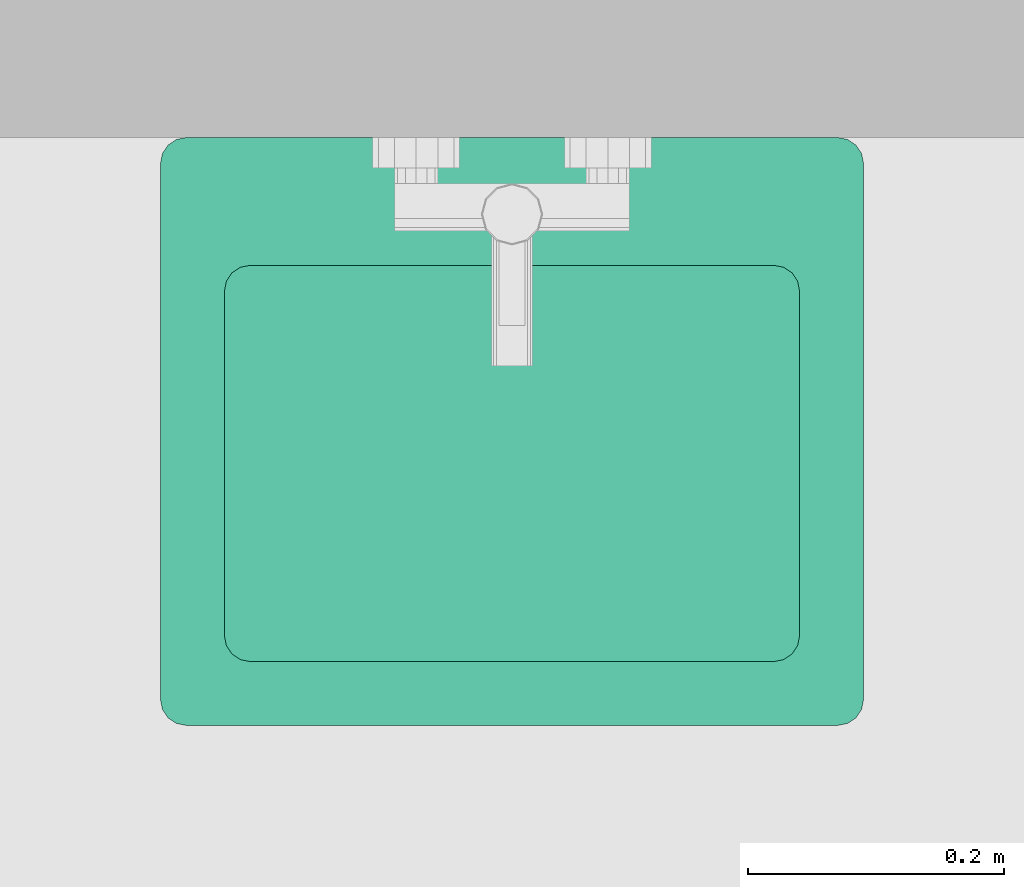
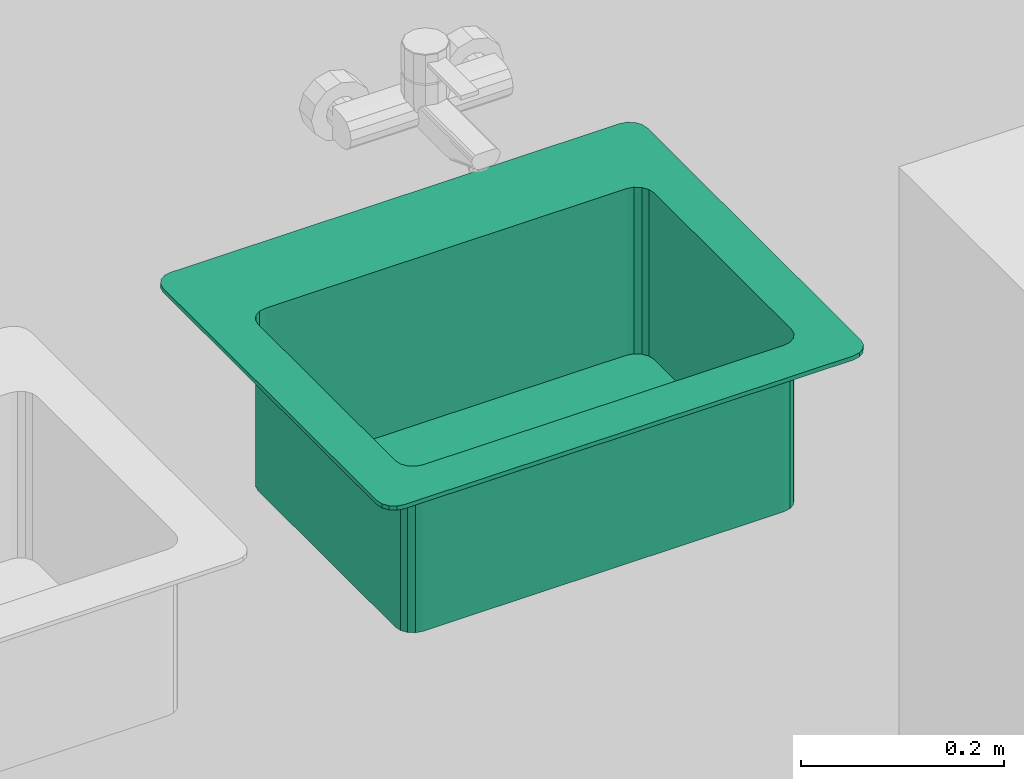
# One storey, part 256 of 301: 1 flow terminal.
"""IFC2X3 building model written with IfcOpenShell, lengths in millimetres."""

from ifc_helpers import new_model, entity, si_unit, converted_unit, derived_unit, money_unit, direction, frame, origin_with_axes, place, context, subcontext, project, spatial, open_shell, faceted_brep, surface_model, source, transform, mapped, type_object, element, save


model = new_model("IFC2X3")

# Units and contexts
model_context = context("Model", 3, precision=0.01, world=origin_with_axes(), true_north=direction((0.0, 1.0)))
body_context = subcontext(model_context, "Body", "Model", "MODEL_VIEW")
ifc_project = project(units=[si_unit("LENGTHUNIT", "METRE", prefix="MILLI"), si_unit("AREAUNIT", "SQUARE_METRE"), si_unit("VOLUMEUNIT", "CUBIC_METRE"), converted_unit("PLANEANGLEUNIT", "DEGREE", entity("IfcPlaneAngleMeasure", 0.0174532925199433), si_unit("PLANEANGLEUNIT", "RADIAN"), dimensions=[0, 0, 0, 0, 0, 0, 0]), money_unit("EUR"), converted_unit("TIMEUNIT", "Year", entity("IfcTimeMeasure", 31557600.0), si_unit("TIMEUNIT", "SECOND"), dimensions=[0, 0, 1, 0, 0, 0, 0]), si_unit("MASSUNIT", "GRAM", prefix="KILO"), si_unit("THERMODYNAMICTEMPERATUREUNIT", "DEGREE_CELSIUS"), si_unit("LUMINOUSINTENSITYUNIT", "LUMEN"), si_unit("ENERGYUNIT", "JOULE", prefix="MEGA"), derived_unit("THERMALCONDUCTANCEUNIT", [(si_unit("POWERUNIT", "WATT"), 1), (si_unit("LENGTHUNIT", "METRE"), -1), (si_unit("THERMODYNAMICTEMPERATUREUNIT", "KELVIN"), -1)]), derived_unit("SPECIFICHEATCAPACITYUNIT", [(si_unit("ENERGYUNIT", "JOULE"), 1), (si_unit("MASSUNIT", "GRAM", prefix="KILO"), -1), (si_unit("THERMODYNAMICTEMPERATUREUNIT", "KELVIN"), -1)]), derived_unit("MASSDENSITYUNIT", [(si_unit("MASSUNIT", "GRAM", prefix="KILO"), 1), (si_unit("VOLUMEUNIT", "CUBIC_METRE"), -1)])], contexts=[model_context])

# Site, building, storey
site_placement = place(None, frame((0.0, 0.0, 8650.0), z_axis=(0.0, 0.0, 1.0), x_axis=(1.0, 0.0, 0.0)))
site = spatial("IfcSite", under=ifc_project, at=site_placement, Name="43301:001:0844", CompositionType="ELEMENT")
building_placement = place(site_placement, origin_with_axes())
building = spatial("IfcBuilding", under=site, at=building_placement, Name="Kuressaare Ametikooli tuulikute mehaanikute õppekorpus", CompositionType="ELEMENT")
storey_placement = place(building_placement, origin_with_axes())
storey = spatial("IfcBuildingStorey", under=building, at=storey_placement, Name="1.korrus", CompositionType="ELEMENT", Elevation=0.0)

# Flow terminal
sanitary_terminal_type = type_object("IfcSanitaryTerminalType", Name="Sink General 27", PredefinedType="NOTDEFINED")
shared_shape = source(origin_with_axes(), body_context, "Body", "SurfaceModel", [
    surface_model("IfcShellBasedSurfaceModel", [(-70.0, 50.0, 705.0), (-70.0, 50.0, 899.9999999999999), (-479.9999999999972, 50.0, 899.9999999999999), (-479.9999999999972, 50.0, 705.0), (-62.34633135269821, 51.52240934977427, 705.0), (-62.34633135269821, 51.52240934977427, 899.9999999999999), (-487.6536686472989, 51.52240934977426, 899.9999999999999), (-487.6536686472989, 51.52240934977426, 705.0), (-494.1421356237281, 55.85786437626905, 705.0), (-498.4775906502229, 62.3463313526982, 705.0), (-499.9999999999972, 70.0, 705.0), (-499.9999999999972, 340.0000000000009, 705.0), (-498.4775906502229, 347.6536686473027, 705.0), (-494.1421356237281, 354.1421356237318, 705.0), (-487.653668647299, 358.4775906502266, 705.0), (-479.9999999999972, 360.0000000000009, 705.0), (-70.0, 360.0000000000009, 705.0), (-62.34633135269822, 358.4775906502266, 705.0), (-55.85786437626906, 354.1421356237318, 705.0), (-51.52240934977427, 347.6536686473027, 705.0), (-50.0, 340.0000000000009, 705.0), (-50.0, 70.0, 705.0), (-51.52240934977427, 62.34633135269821, 705.0), (-55.85786437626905, 55.85786437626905, 705.0), (-55.85786437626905, 55.85786437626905, 899.9999999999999), (-494.1421356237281, 55.85786437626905, 899.9999999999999), (-498.4775906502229, 62.3463313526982, 899.9999999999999), (-499.9999999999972, 70.0, 899.9999999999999), (-499.9999999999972, 340.0000000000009, 899.9999999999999), (-498.4775906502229, 347.6536686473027, 899.9999999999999), (-494.1421356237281, 354.1421356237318, 899.9999999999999), (-487.653668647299, 358.4775906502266, 899.9999999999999), (-479.9999999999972, 360.0000000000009, 899.9999999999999), (-70.0, 360.0000000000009, 899.9999999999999), (-62.34633135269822, 358.4775906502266, 899.9999999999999), (-55.85786437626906, 354.1421356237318, 899.9999999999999), (-51.52240934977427, 347.6536686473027, 899.9999999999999), (-50.0, 340.0000000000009, 899.9999999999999), (-50.0, 70.0, 899.9999999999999), (-51.52240934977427, 62.34633135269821, 899.9999999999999)], [open_shell([[[0, 1, 2, 3]], [[4, 5, 1, 0]], [[3, 2, 6, 7]], [[0, 3, 7, 8, 9, 10, 11, 12, 13, 14, 15, 16, 17, 18, 19, 20, 21, 22, 23, 4]], [[23, 24, 5, 4]], [[7, 6, 25, 8]], [[8, 25, 26, 9]], [[9, 26, 27, 10]], [[10, 27, 28, 11]], [[11, 28, 29, 12]], [[12, 29, 30, 13]], [[13, 30, 31, 14]], [[14, 31, 32, 15]], [[15, 32, 33, 16]], [[16, 33, 34, 17]], [[17, 34, 35, 18]], [[18, 35, 36, 19]], [[19, 36, 37, 20]], [[20, 37, 38, 21]], [[21, 38, 39, 22]], [[22, 39, 24, 23]]])]),
    faceted_brep([(-20.0, 0.0, 899.9999999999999), (-20.0, 0.0, 904.9999999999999), (-529.9999999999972, 0.0, 904.9999999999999), (-529.9999999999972, 0.0, 899.9999999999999), (-12.34633135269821, 1.522409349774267, 899.9999999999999), (-12.34633135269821, 1.522409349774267, 904.9999999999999), (-5.857864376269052, 5.857864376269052, 904.9999999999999), (-1.522409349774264, 12.34633135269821, 904.9999999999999), (0.0, 20.0, 904.9999999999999), (0.0, 440.0000000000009, 904.9999999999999), (-1.522409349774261, 447.6536686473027, 904.9999999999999), (-5.85786437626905, 454.1421356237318, 904.9999999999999), (-12.34633135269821, 458.4775906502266, 904.9999999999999), (-20.0, 460.0000000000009, 904.9999999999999), (-529.9999999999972, 460.0000000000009, 904.9999999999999), (-537.6536686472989, 458.4775906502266, 904.9999999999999), (-544.1421356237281, 454.1421356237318, 904.9999999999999), (-548.4775906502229, 447.6536686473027, 904.9999999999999), (-549.9999999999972, 440.0000000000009, 904.9999999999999), (-549.9999999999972, 20.0, 904.9999999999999), (-548.4775906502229, 12.3463313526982, 904.9999999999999), (-544.142135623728, 5.857864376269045, 904.9999999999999), (-537.6536686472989, 1.522409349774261, 904.9999999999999), (-70.0, 50.0, 904.9999999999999), (-479.9999999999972, 50.0, 904.9999999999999), (-487.6536686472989, 51.52240934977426, 904.9999999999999), (-494.1421356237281, 55.85786437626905, 904.9999999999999), (-498.4775906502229, 62.3463313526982, 904.9999999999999), (-499.9999999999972, 70.0, 904.9999999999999), (-499.9999999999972, 340.0000000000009, 904.9999999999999), (-498.4775906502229, 347.6536686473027, 904.9999999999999), (-494.1421356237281, 354.1421356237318, 904.9999999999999), (-487.653668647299, 358.4775906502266, 904.9999999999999), (-479.9999999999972, 360.0000000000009, 904.9999999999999), (-70.0, 360.0000000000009, 904.9999999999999), (-62.34633135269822, 358.4775906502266, 904.9999999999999), (-55.85786437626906, 354.1421356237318, 904.9999999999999), (-51.52240934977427, 347.6536686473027, 904.9999999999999), (-50.0, 340.0000000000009, 904.9999999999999), (-50.0, 70.0, 904.9999999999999), (-51.52240934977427, 62.34633135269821, 904.9999999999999), (-55.85786437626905, 55.85786437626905, 904.9999999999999), (-62.34633135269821, 51.52240934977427, 904.9999999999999), (-537.6536686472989, 1.522409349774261, 899.9999999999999), (-544.142135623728, 5.857864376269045, 899.9999999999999), (-548.4775906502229, 12.3463313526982, 899.9999999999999), (-549.9999999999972, 20.0, 899.9999999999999), (-549.9999999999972, 440.0000000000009, 899.9999999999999), (-548.4775906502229, 447.6536686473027, 899.9999999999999), (-544.1421356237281, 454.1421356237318, 899.9999999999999), (-537.6536686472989, 458.4775906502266, 899.9999999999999), (-529.9999999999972, 460.0000000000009, 899.9999999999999), (-20.0, 460.0000000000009, 899.9999999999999), (-12.34633135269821, 458.4775906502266, 899.9999999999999), (-5.85786437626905, 454.1421356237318, 899.9999999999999), (-1.522409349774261, 447.6536686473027, 899.9999999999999), (0.0, 440.0000000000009, 899.9999999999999), (0.0, 20.0, 899.9999999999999), (-1.522409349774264, 12.34633135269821, 899.9999999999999), (-5.857864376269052, 5.857864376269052, 899.9999999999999), (-70.0, 50.0, 899.9999999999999), (-62.34633135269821, 51.52240934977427, 899.9999999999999), (-55.85786437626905, 55.85786437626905, 899.9999999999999), (-51.52240934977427, 62.34633135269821, 899.9999999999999), (-50.0, 70.0, 899.9999999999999), (-50.0, 340.0000000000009, 899.9999999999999), (-51.52240934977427, 347.6536686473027, 899.9999999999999), (-55.85786437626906, 354.1421356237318, 899.9999999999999), (-62.34633135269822, 358.4775906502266, 899.9999999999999), (-70.0, 360.0000000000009, 899.9999999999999), (-479.9999999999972, 360.0000000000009, 899.9999999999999), (-487.653668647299, 358.4775906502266, 899.9999999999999), (-494.1421356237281, 354.1421356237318, 899.9999999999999), (-498.4775906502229, 347.6536686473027, 899.9999999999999), (-499.9999999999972, 340.0000000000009, 899.9999999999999), (-499.9999999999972, 70.0, 899.9999999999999), (-498.4775906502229, 62.3463313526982, 899.9999999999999), (-494.1421356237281, 55.85786437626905, 899.9999999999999), (-487.6536686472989, 51.52240934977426, 899.9999999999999), (-479.9999999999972, 50.0, 899.9999999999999)], [[[0, 1, 2, 3]], [[4, 5, 1, 0]], [[1, 5, 6, 7, 8, 9, 10, 11, 12, 13, 14, 15, 16, 17, 18, 19, 20, 21, 22, 2], [23, 24, 25, 26, 27, 28, 29, 30, 31, 32, 33, 34, 35, 36, 37, 38, 39, 40, 41, 42]], [[3, 2, 22, 43]], [[0, 3, 43, 44, 45, 46, 47, 48, 49, 50, 51, 52, 53, 54, 55, 56, 57, 58, 59, 4], [60, 61, 62, 63, 64, 65, 66, 67, 68, 69, 70, 71, 72, 73, 74, 75, 76, 77, 78, 79]], [[59, 6, 5, 4]], [[58, 7, 6, 59]], [[57, 8, 7, 58]], [[56, 9, 8, 57]], [[55, 10, 9, 56]], [[54, 11, 10, 55]], [[53, 12, 11, 54]], [[52, 13, 12, 53]], [[51, 14, 13, 52]], [[50, 15, 14, 51]], [[49, 16, 15, 50]], [[48, 17, 16, 49]], [[47, 18, 17, 48]], [[46, 19, 18, 47]], [[45, 20, 19, 46]], [[44, 21, 20, 45]], [[43, 22, 21, 44]], [[79, 24, 23, 60]], [[78, 25, 24, 79]], [[77, 26, 25, 78]], [[76, 27, 26, 77]], [[75, 28, 27, 76]], [[74, 29, 28, 75]], [[73, 30, 29, 74]], [[72, 31, 30, 73]], [[71, 32, 31, 72]], [[70, 33, 32, 71]], [[69, 34, 33, 70]], [[68, 35, 34, 69]], [[67, 36, 35, 68]], [[66, 37, 36, 67]], [[65, 38, 37, 66]], [[64, 39, 38, 65]], [[63, 40, 39, 64]], [[62, 41, 40, 63]], [[61, 42, 41, 62]], [[60, 23, 42, 61]]]),
])
flow_terminal_placement = place(storey_placement, frame((107430.5124300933, 17304.79956493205, 0.0), z_axis=(0.0, 0.0, 1.0), x_axis=(1.0, 0.0, 0.0)))
element("IfcFlowTerminal", 1, at=flow_terminal_placement, inside=storey, type_object=sanitary_terminal_type, Name="V3", context=body_context, shape_type="MappedRepresentation", body=[
    mapped(shared_shape, transform((0.0, 0.0, 0.0))),
])

save(model, "model.ifc")
